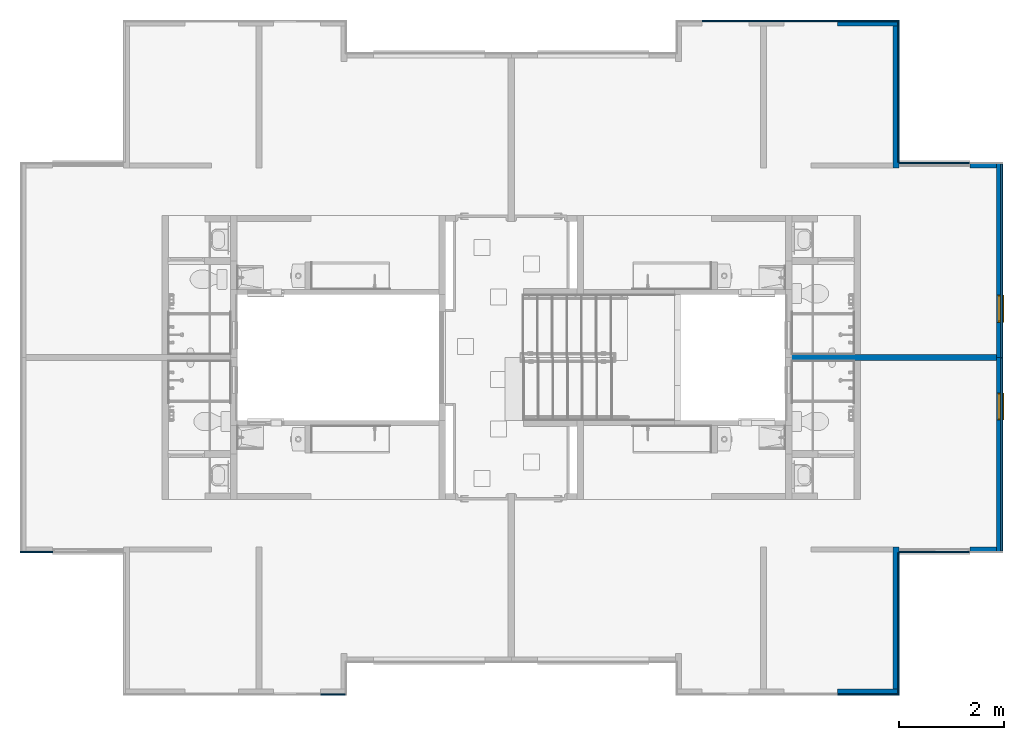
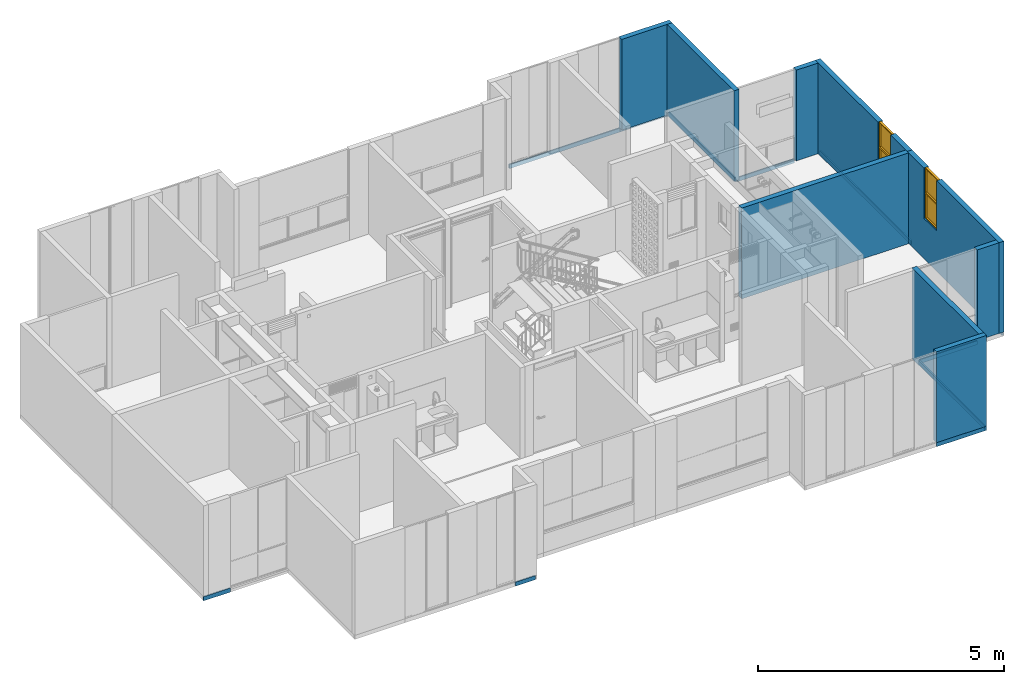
# One storey, part 26 of 48: 20 walls, 2 windows, 2 openings.
"""IFC4 building model written with IfcOpenShell, lengths in metres."""

from ifc_helpers import new_model, entity, si_unit, converted_unit, derived_unit, direction, frame, origin, place, context, subcontext, project, spatial, indexed_curve, outline, extrude, polygons, source, transform, mapped, material, constituent, constituent_set, type_object, type_shapes, element, fill, save


model = new_model("IFC4")

# Units and contexts
model_context = context("Model", 3, precision=1e-05, world=origin(), true_north=direction((6.123031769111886e-17, 1.0)))
body_context = subcontext(model_context, "Body", "Model", "MODEL_VIEW")
ifc_project = project(units=[si_unit("LENGTHUNIT", "METRE"), si_unit("AREAUNIT", "SQUARE_METRE"), si_unit("VOLUMEUNIT", "CUBIC_METRE"), converted_unit("PLANEANGLEUNIT", "DEGREE", entity("IfcRatioMeasure", 0.017453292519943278), si_unit("PLANEANGLEUNIT", "RADIAN"), dimensions=[0, 0, 0, 0, 0, 0, 0]), si_unit("MASSUNIT", "GRAM", prefix="KILO"), derived_unit("MASSDENSITYUNIT", [(si_unit("MASSUNIT", "GRAM", prefix="KILO"), 1), (si_unit("LENGTHUNIT", "METRE"), -3)]), derived_unit("IONCONCENTRATIONUNIT", [(si_unit("MASSUNIT", "GRAM", prefix="KILO"), 1), (si_unit("LENGTHUNIT", "METRE"), -3)]), derived_unit("MOMENTOFINERTIAUNIT", [(si_unit("LENGTHUNIT", "METRE"), 4)]), si_unit("TIMEUNIT", "SECOND"), si_unit("FREQUENCYUNIT", "HERTZ"), si_unit("THERMODYNAMICTEMPERATUREUNIT", "DEGREE_CELSIUS"), derived_unit("THERMALTRANSMITTANCEUNIT", [(si_unit("MASSUNIT", "GRAM", prefix="KILO"), 1), (si_unit("THERMODYNAMICTEMPERATUREUNIT", "KELVIN"), -1), (si_unit("TIMEUNIT", "SECOND"), -3)]), derived_unit("THERMALCONDUCTANCEUNIT", [(si_unit("MASSUNIT", "GRAM", prefix="KILO"), 1), (si_unit("THERMODYNAMICTEMPERATUREUNIT", "KELVIN"), -1), (si_unit("TIMEUNIT", "SECOND"), -3), (si_unit("LENGTHUNIT", "METRE"), 1)]), derived_unit("VOLUMETRICFLOWRATEUNIT", [(si_unit("LENGTHUNIT", "METRE"), 3), (si_unit("TIMEUNIT", "SECOND"), -1)]), derived_unit("MASSFLOWRATEUNIT", [(si_unit("MASSUNIT", "GRAM", prefix="KILO"), 1), (si_unit("TIMEUNIT", "SECOND"), -1)]), derived_unit("ROTATIONALFREQUENCYUNIT", [(si_unit("TIMEUNIT", "SECOND"), -1)]), si_unit("ELECTRICCURRENTUNIT", "AMPERE"), si_unit("ELECTRICVOLTAGEUNIT", "VOLT"), si_unit("POWERUNIT", "WATT"), si_unit("FORCEUNIT", "NEWTON", prefix="KILO"), si_unit("ILLUMINANCEUNIT", "LUX"), si_unit("LUMINOUSFLUXUNIT", "LUMEN"), si_unit("LUMINOUSINTENSITYUNIT", "CANDELA"), derived_unit("USERDEFINED", [(si_unit("MASSUNIT", "GRAM", prefix="KILO"), -1), (si_unit("LENGTHUNIT", "METRE"), -2), (si_unit("TIMEUNIT", "SECOND"), 3), (si_unit("LUMINOUSFLUXUNIT", "LUMEN"), 1)]), derived_unit("USERDEFINED", [(si_unit("MASSUNIT", "GRAM", prefix="KILO"), 1), (si_unit("TIMEUNIT", "SECOND"), -3), (si_unit("LENGTHUNIT", "METRE"), 3), (si_unit("ELECTRICCURRENTUNIT", "AMPERE"), -2)]), derived_unit("SOUNDPOWERUNIT", [(si_unit("MASSUNIT", "GRAM", prefix="KILO"), 1), (si_unit("TIMEUNIT", "SECOND"), -3), (si_unit("LENGTHUNIT", "METRE"), 2)]), derived_unit("SOUNDPRESSUREUNIT", [(si_unit("MASSUNIT", "GRAM", prefix="KILO"), 1), (si_unit("LENGTHUNIT", "METRE"), -1), (si_unit("TIMEUNIT", "SECOND"), -2)]), derived_unit("LINEARVELOCITYUNIT", [(si_unit("LENGTHUNIT", "METRE"), 1), (si_unit("TIMEUNIT", "SECOND"), -1)]), si_unit("PRESSUREUNIT", "PASCAL"), derived_unit("USERDEFINED", [(si_unit("MASSUNIT", "GRAM", prefix="KILO"), 1), (si_unit("LENGTHUNIT", "METRE"), -2), (si_unit("TIMEUNIT", "SECOND"), -2)]), derived_unit("LINEARFORCEUNIT", [(si_unit("MASSUNIT", "GRAM", prefix="KILO"), 1), (si_unit("TIMEUNIT", "SECOND"), -2)]), derived_unit("PLANARFORCEUNIT", [(si_unit("MASSUNIT", "GRAM", prefix="KILO"), 1), (si_unit("LENGTHUNIT", "METRE"), -1), (si_unit("TIMEUNIT", "SECOND"), -2)]), derived_unit("SPECIFICHEATCAPACITYUNIT", [(si_unit("THERMODYNAMICTEMPERATUREUNIT", "KELVIN"), -1), (si_unit("LENGTHUNIT", "METRE"), 2), (si_unit("TIMEUNIT", "SECOND"), -2)]), derived_unit("HEATINGVALUEUNIT", [(si_unit("LENGTHUNIT", "METRE"), 2), (si_unit("TIMEUNIT", "SECOND"), -2)]), derived_unit("VAPORPERMEABILITYUNIT", [(si_unit("LENGTHUNIT", "METRE"), -1), (si_unit("TIMEUNIT", "SECOND"), 1)]), derived_unit("DYNAMICVISCOSITYUNIT", [(si_unit("MASSUNIT", "GRAM", prefix="KILO"), 1), (si_unit("TIMEUNIT", "SECOND"), -1), (si_unit("LENGTHUNIT", "METRE"), -1)]), derived_unit("THERMALEXPANSIONCOEFFICIENTUNIT", [(si_unit("THERMODYNAMICTEMPERATUREUNIT", "KELVIN"), -1)]), derived_unit("MODULUSOFELASTICITYUNIT", [(si_unit("MASSUNIT", "GRAM", prefix="KILO"), 1), (si_unit("LENGTHUNIT", "METRE"), -1), (si_unit("TIMEUNIT", "SECOND"), -2)]), derived_unit("ISOTHERMALMOISTURECAPACITYUNIT", [(si_unit("LENGTHUNIT", "METRE"), 3), (si_unit("MASSUNIT", "GRAM", prefix="KILO"), -1)]), derived_unit("MOISTUREDIFFUSIVITYUNIT", [(si_unit("TIMEUNIT", "SECOND"), -1), (si_unit("LENGTHUNIT", "METRE"), 2)])], contexts=[model_context])

# Site, building, storey
site_placement = place(None, origin())
site = spatial("IfcSite", under=ifc_project, at=site_placement, Name="Default", CompositionType="ELEMENT")
building_placement = place(site_placement, origin())
building = spatial("IfcBuilding", under=site, at=building_placement, CompositionType="ELEMENT")
storey_placement = place(building_placement, frame((0.0, 0.0, 4.700000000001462)))
storey = spatial("IfcBuildingStorey", under=building, at=storey_placement, Name="Nivel 3", CompositionType="ELEMENT", Elevation=4.700000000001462)

# Wall
ifc_material_1 = material(Name="Concreto (Aire)", Category="Materials")
wall_type_1 = type_object("IfcWallType", Name="Basic Wall:B2010 - 0.12m - Muro interior en concreto", PredefinedType="STANDARD")
wall_1_placement = place(storey_placement, frame((18.587500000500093, -6.425000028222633, 0.0), z_axis=(0.0, 0.0, 1.0), x_axis=(-1.0, 0.0, 0.0)))
element("IfcWall", 1, at=wall_1_placement, inside=storey, type_object=wall_type_1, material=ifc_material_1, Name="Basic Wall:B2010 - 0.12m - Muro interior en concreto", ObjectType="Basic Wall:B2010 - 0.12m - Muro interior en concreto", PredefinedType="NOTDEFINED", context=body_context, shape_type="SweptSolid", body=[
    extrude(outline(indexed_curve([(3.914999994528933, 0.06000000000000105), (1.8965521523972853e-16, 0.060000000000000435), (-1.8965521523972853e-16, -0.060000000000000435), (3.914999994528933, -0.05999999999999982), (3.914999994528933, 0.06000000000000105)], self_intersect=False)), origin(), (0.0, 0.0, 1.0), 2.250000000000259),
])

# Wall, opening, window
ifc_material_2 = material(Name="Ladrillo claro (Aire)", Category="Materials")
wall_type_2 = type_object("IfcWallType", Name="Basic Wall:B2010 - 0.115m - Muro exterior en mampostería - Ladrillo", PredefinedType="STANDARD")
wall_2_placement = place(storey_placement, frame((18.64500000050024, -2.695000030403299, 0.0), z_axis=(0.0, 0.0, 1.0), x_axis=(0.0, -1.0, 0.0)))
wall_2 = element("IfcWall", 2, at=wall_2_placement, inside=storey, type_object=wall_type_2, material=ifc_material_2, Name="Basic Wall:B2010 - 0.115m - Muro exterior en mampostería - Ladrillo", ObjectType="Basic Wall:B2010 - 0.115m - Muro exterior en mampostería - Ladrillo", PredefinedType="NOTDEFINED", context=body_context, shape_type="Tessellation", body=[
    polygons([(3.729999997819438, -0.05750000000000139, 2.2500000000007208), (3.056249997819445, -0.05749999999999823, 2.2500000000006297), (3.056249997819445, -0.05749999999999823, 1.0000000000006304), (2.536249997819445, -0.057500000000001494, 1.0000000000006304), (2.536249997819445, -0.057500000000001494, 2.2500000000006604), (5.414335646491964e-16, -0.05749999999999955, 2.2500000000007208), (5.414335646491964e-16, -0.05749999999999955, 0.0), (3.729999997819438, -0.05750000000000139, 0.0), (3.0562499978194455, 0.05750000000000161, 1.0000000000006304), (3.0562499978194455, 0.05750000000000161, 2.2500000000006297), (3.7299999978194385, 0.05750000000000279, 2.2500000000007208), (3.7299999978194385, 0.05750000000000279, 0.0), (5.414335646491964e-16, 0.057500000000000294, 0.0), (5.414335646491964e-16, 0.057500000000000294, 2.2500000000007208), (2.5362499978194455, 0.05750000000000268, 2.2500000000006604), (2.5362499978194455, 0.05750000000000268, 1.0000000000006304)], [[[1, 2, 3, 4, 5, 6, 7, 8]], [[9, 10, 11, 12, 13, 14, 15, 16]], [[8, 7, 13, 12]], [[1, 8, 12, 11]], [[11, 10, 2, 1]], [[7, 6, 14, 13]], [[5, 4, 16, 15]], [[3, 2, 10, 9]], [[4, 3, 9, 16]], [[15, 14, 6, 5]]], closed=True),
])
opening_1_placement = place(wall_2_placement, frame((2.5362499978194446, -0.057500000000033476, 1.0)))
opening_1 = element("IfcOpeningElement", 3, at=opening_1_placement, cuts=wall_2, Name="B2020 - Ventana batiente - Aluminio + Vidrio:B2020 -0.52m x 1.1.25m - Ventana batiente 2C - Aluminio + Vidrio:1", PredefinedType="OPENING", context=body_context, shape_type="SweptSolid", body=[
    extrude(outline(indexed_curve([(0.0, -1.3535839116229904e-16), (1.2499999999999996, -1.3535839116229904e-16), (1.2499999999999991, 0.5199999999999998), (0.0, 0.5199999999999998), (0.0, -1.3535839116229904e-16)], self_intersect=False)), frame((0.0, 0.0, 0.0), z_axis=(0.0, 1.0, 0.0), x_axis=(0.0, 0.0, 1.0)), (0.0, 0.0, 1.0), 0.115),
])
ifc_material_3 = material(Name="Vidrio", Category="Materials")
ifc_constituent_1 = constituent(ifc_material_3, Name="Vidrio", Category="Materials")
ifc_material_4 = material(Name="Aluminio", Category="Materials")
ifc_constituent_2 = constituent(ifc_material_4, Name="Aluminio", Category="Materials")
ifc_material_5 = material(Name="<Unnamed>")
ifc_constituent_3 = constituent(ifc_material_5, Name="<Unnamed>")
ifc_constituent_set_1 = constituent_set(constituents=[ifc_constituent_1, ifc_constituent_2, ifc_constituent_3])
ifc_constituent_4 = constituent(ifc_material_3, Name="Vidrio", Category="Materials")
ifc_constituent_5 = constituent(ifc_material_4, Name="Aluminio", Category="Materials")
ifc_constituent_6 = constituent(ifc_material_5, Name="<Unnamed>")
ifc_constituent_set_2 = constituent_set(constituents=[ifc_constituent_4, ifc_constituent_5, ifc_constituent_6])
window_type_1 = type_object("IfcWindowType", Name="B2020 - Ventana batiente - Aluminio + Vidrio:B2020 -0.52m x 1.1.25m - Ventana batiente 2C - Aluminio + Vidrio", PartitioningType="NOTDEFINED", PredefinedType="WINDOW", material=ifc_constituent_set_2)
shared_shape_1 = source(origin(), body_context, "Body", "SweptSolid", [
    extrude(outline(indexed_curve([(-0.0020000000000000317, -0.2400000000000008), (0.0019999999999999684, -0.2400000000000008), (0.0020000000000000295, 0.2400000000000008), (-0.0019999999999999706, 0.2400000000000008), (-0.0020000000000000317, -0.2400000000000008)], self_intersect=False)), frame((0.26000000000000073, 0.07013901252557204, 0.01999999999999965), z_axis=(0.0, 0.0, 1.0), x_axis=(0.0, -1.0, 0.0)), (0.0, 0.0, 1.0), 0.585),
    extrude(outline(indexed_curve([(-0.3124999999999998, -0.2599999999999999), (0.3124999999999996, -0.2599999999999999), (0.3124999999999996, 0.2599999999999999), (-0.3124999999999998, 0.2599999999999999), (-0.3124999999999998, -0.2599999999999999)], self_intersect=False), holes=[indexed_curve([(0.2924999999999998, -0.24000000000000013), (-0.2925, -0.24000000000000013), (-0.2925, 0.24000000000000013), (0.2924999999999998, 0.24000000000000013), (0.2924999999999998, -0.24000000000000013)], self_intersect=False)]), frame((0.26000000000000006, 0.032499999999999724, 0.3124999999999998), z_axis=(0.0, 1.0, 0.0), x_axis=(0.0, 0.0, 1.0)), (0.0, 0.0, 1.0), 0.05),
    extrude(outline(indexed_curve([(-0.0020000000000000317, -0.2400000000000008), (0.0019999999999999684, -0.2400000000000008), (0.0020000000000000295, 0.2400000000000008), (-0.0019999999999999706, 0.2400000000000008), (-0.0020000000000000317, -0.2400000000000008)], self_intersect=False)), frame((0.25999999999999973, 0.07013901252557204, 0.6449999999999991), z_axis=(0.0, 0.0, 1.0), x_axis=(0.0, -1.0, 0.0)), (0.0, 0.0, 1.0), 0.585),
    extrude(outline(indexed_curve([(-0.3124999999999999, -0.2599999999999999), (0.3124999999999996, -0.2599999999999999), (0.3124999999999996, 0.25999999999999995), (-0.3124999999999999, 0.2599999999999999), (-0.3124999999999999, -0.2599999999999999)], self_intersect=False), holes=[indexed_curve([(0.2924999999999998, -0.24000000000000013), (-0.2925000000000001, -0.24000000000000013), (-0.2925000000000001, 0.24000000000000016), (0.2924999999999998, 0.24000000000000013), (0.2924999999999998, -0.24000000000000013)], self_intersect=False)]), frame((0.259999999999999, 0.032499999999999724, 0.9374999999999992), z_axis=(0.0, 1.0, 0.0), x_axis=(0.0, 0.0, 1.0)), (0.0, 0.0, 1.0), 0.05),
    extrude(outline(indexed_curve([(2.1899534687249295e-05, 0.0030283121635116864), (0.03002189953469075, 0.0030283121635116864), (0.030021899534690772, 0.008028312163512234), (-0.0013178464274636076, 0.00802831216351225), (-0.030623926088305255, -0.008891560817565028), (-0.02812392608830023, -0.013221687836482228), (2.1899534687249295e-05, 0.0030283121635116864)], self_intersect=False)), frame((0.0, 0.11346687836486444, -0.002611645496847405), z_axis=(1.0, 0.0, 0.0), x_axis=(0.0, 0.8660254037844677, -0.4999999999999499)), (0.0, 0.0, 1.0), 0.520000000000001),
])
type_shapes(window_type_1, [shared_shape_1])
window_1_placement = place(opening_1_placement, origin())
window_1 = element("IfcWindow", 4, at=window_1_placement, inside=storey, type_object=window_type_1, material=ifc_constituent_set_1, Name="B2020 - Ventana batiente - Aluminio + Vidrio:B2020 -0.52m x 1.1.25m - Ventana batiente 2C - Aluminio + Vidrio", ObjectType="B2020 - Ventana batiente - Aluminio + Vidrio:B2020 -0.52m x 1.1.25m - Ventana batiente 2C - Aluminio + Vidrio", OverallHeight=1.2499999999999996, OverallWidth=0.5199999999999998, PartitioningType="NOTDEFINED", PredefinedType="WINDOW", context=body_context, shape_type="MappedRepresentation", body=[
    mapped(shared_shape_1, transform((0.0, 0.0, 0.0), scale=1.0)),
])
fill(opening_1, window_1)

# Wall
wall_3_placement = place(storey_placement, frame((16.670000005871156, -2.8100000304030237, 0.0), z_axis=(0.0, 0.0, 1.0), x_axis=(0.0, 1.0, 0.0)))
element("IfcWall", 5, at=wall_3_placement, inside=storey, type_object=wall_type_2, material=ifc_material_2, Name="Basic Wall:B2010 - 0.115m - Muro exterior en mampostería - Ladrillo", ObjectType="Basic Wall:B2010 - 0.115m - Muro exterior en mampostería - Ladrillo", PredefinedType="NOTDEFINED", context=body_context, shape_type="SweptSolid", body=[
    extrude(outline(indexed_curve([(2.7150000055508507, 0.057499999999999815), (1.0301981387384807e-16, 0.057499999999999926), (-1.0301981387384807e-16, -0.057499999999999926), (2.7150000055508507, -0.05750000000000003), (2.7150000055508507, 0.057499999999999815)], self_intersect=False)), origin(), (0.0, 0.0, 1.0), 2.2500000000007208),
])

# Wall, opening, window
wall_4_placement = place(storey_placement, frame((18.645000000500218, -10.15500002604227, 0.0), z_axis=(0.0, 0.0, 1.0), x_axis=(0.0, 1.0, 0.0)))
wall_4 = element("IfcWall", 6, at=wall_4_placement, inside=storey, type_object=wall_type_2, material=ifc_material_2, Name="Basic Wall:B2010 - 0.115m - Muro exterior en mampostería - Ladrillo", ObjectType="Basic Wall:B2010 - 0.115m - Muro exterior en mampostería - Ladrillo", PredefinedType="NOTDEFINED", context=body_context, shape_type="Tessellation", body=[
    polygons([(3.729999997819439, -0.05750000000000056, 2.2500000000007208), (3.05624999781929, -0.05749999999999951, 2.2500000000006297), (3.05624999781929, -0.05749999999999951, 1.0000000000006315), (2.5362499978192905, -0.05749999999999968, 1.0000000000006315), (2.5362499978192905, -0.05749999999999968, 2.2500000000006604), (0.0, -0.057499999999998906, 2.2500000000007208), (0.0, -0.057499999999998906, 0.0), (3.729999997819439, -0.05750000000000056, 0.0), (3.056249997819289, 0.057500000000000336, 1.0000000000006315), (3.056249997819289, 0.057500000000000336, 2.2500000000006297), (3.729999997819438, 0.05750000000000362, 2.2500000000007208), (3.729999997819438, 0.05750000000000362, 0.0), (0.0, 0.05750000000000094, 0.0), (0.0, 0.05750000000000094, 2.2500000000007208), (2.5362499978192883, 0.05750000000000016, 2.2500000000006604), (2.5362499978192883, 0.05750000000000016, 1.0000000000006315)], [[[1, 2, 3, 4, 5, 6, 7, 8]], [[9, 10, 11, 12, 13, 14, 15, 16]], [[8, 7, 13, 12]], [[1, 8, 12, 11]], [[11, 10, 2, 1]], [[7, 6, 14, 13]], [[5, 4, 16, 15]], [[3, 2, 10, 9]], [[4, 3, 9, 16]], [[15, 14, 6, 5]]], closed=True),
])
opening_2_placement = place(wall_4_placement, frame((3.056249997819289, 0.05750000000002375, 1.0)))
opening_2 = element("IfcOpeningElement", 7, at=opening_2_placement, cuts=wall_4, Name="B2020 - Ventana batiente - Aluminio + Vidrio:B2020 -0.52m x 1.1.25m - Ventana batiente 2C - Aluminio + Vidrio:1", PredefinedType="OPENING", context=body_context, shape_type="SweptSolid", body=[
    extrude(outline(indexed_curve([(0.0, 0.5199999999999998), (0.0, 0.0), (1.2499999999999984, 0.0), (1.2499999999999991, 0.5199999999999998), (0.0, 0.5199999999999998)], self_intersect=False)), frame((0.0, 0.0, 0.0), z_axis=(0.0, -1.0, 0.0), x_axis=(0.0, 0.0, 1.0)), (0.0, 0.0, 1.0), 0.115),
])
ifc_constituent_7 = constituent(ifc_material_3, Name="Vidrio", Category="Materials")
ifc_constituent_8 = constituent(ifc_material_4, Name="Aluminio", Category="Materials")
ifc_constituent_9 = constituent(ifc_material_5, Name="<Unnamed>")
ifc_constituent_set_3 = constituent_set(constituents=[ifc_constituent_7, ifc_constituent_8, ifc_constituent_9])
ifc_constituent_10 = constituent(ifc_material_3, Name="Vidrio", Category="Materials")
ifc_constituent_11 = constituent(ifc_material_4, Name="Aluminio", Category="Materials")
ifc_constituent_12 = constituent(ifc_material_5, Name="<Unnamed>")
ifc_constituent_set_4 = constituent_set(constituents=[ifc_constituent_10, ifc_constituent_11, ifc_constituent_12])
window_type_2 = type_object("IfcWindowType", Name="B2020 - Ventana batiente - Aluminio + Vidrio:B2020 -0.52m x 1.1.25m - Ventana batiente 2C - Aluminio + Vidrio", PartitioningType="NOTDEFINED", PredefinedType="WINDOW", material=ifc_constituent_set_4)
shared_shape_2 = source(origin(), body_context, "Body", "SweptSolid", [
    extrude(outline(indexed_curve([(-0.2400000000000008, -0.001999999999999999), (0.2400000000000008, -0.001999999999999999), (0.2400000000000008, 0.0020000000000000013), (-0.2400000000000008, 0.0020000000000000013), (-0.2400000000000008, -0.001999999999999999)], self_intersect=False)), frame((0.26000000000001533, 0.07013901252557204, 0.01999999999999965), z_axis=(0.0, 0.0, 1.0), x_axis=(-1.0, 0.0, 0.0)), (0.0, 0.0, 1.0), 0.585),
    extrude(outline(indexed_curve([(-0.2599999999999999, -0.3124999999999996), (0.2599999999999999, -0.3124999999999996), (0.2599999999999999, 0.3124999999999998), (-0.2599999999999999, 0.3124999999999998), (-0.2599999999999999, -0.3124999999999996)], self_intersect=False), holes=[indexed_curve([(-0.24000000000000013, 0.2925), (0.24000000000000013, 0.2925), (0.24000000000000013, -0.2924999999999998), (-0.24000000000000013, -0.2924999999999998), (-0.24000000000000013, 0.2925)], self_intersect=False)]), frame((0.260000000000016, 0.08249999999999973, 0.3124999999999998), z_axis=(0.0, -1.0, 0.0), x_axis=(-1.0, 0.0, 0.0)), (0.0, 0.0, 1.0), 0.05),
    extrude(outline(indexed_curve([(-0.2400000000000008, -0.001999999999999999), (0.2400000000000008, -0.001999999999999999), (0.2400000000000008, 0.0020000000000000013), (-0.2400000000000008, 0.0020000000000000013), (-0.2400000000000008, -0.001999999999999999)], self_intersect=False)), frame((0.2600000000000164, 0.07013901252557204, 0.6449999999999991), z_axis=(0.0, 0.0, 1.0), x_axis=(-1.0, 0.0, 0.0)), (0.0, 0.0, 1.0), 0.585),
    extrude(outline(indexed_curve([(-0.2599999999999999, -0.3124999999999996), (0.2599999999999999, -0.3124999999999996), (0.2599999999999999, 0.3124999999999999), (-0.2599999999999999, 0.3124999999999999), (-0.2599999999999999, -0.3124999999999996)], self_intersect=False), holes=[indexed_curve([(-0.24000000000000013, 0.2925000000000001), (0.24000000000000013, 0.2925000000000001), (0.24000000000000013, -0.2924999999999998), (-0.24000000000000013, -0.2924999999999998), (-0.24000000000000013, 0.2925000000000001)], self_intersect=False)]), frame((0.26000000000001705, 0.08249999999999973, 0.9374999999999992), z_axis=(0.0, -1.0, 0.0), x_axis=(-1.0, 0.0, 0.0)), (0.0, 0.0, 1.0), 0.05),
    extrude(outline(indexed_curve([(-0.0015331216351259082, 0.002611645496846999), (0.030966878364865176, 0.002611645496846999), (0.030966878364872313, 0.007611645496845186), (-0.0028728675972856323, 0.007611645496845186), (-0.030013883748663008, -0.008058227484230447), (-0.027513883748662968, -0.012388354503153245), (-0.0015331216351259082, 0.002611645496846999)], self_intersect=False)), frame((0.5200000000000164, 0.11346687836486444, -0.002611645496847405), z_axis=(-1.0, 0.0, 0.0), x_axis=(0.0, -1.0, 0.0)), (0.0, 0.0, 1.0), 0.5200000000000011),
])
type_shapes(window_type_2, [shared_shape_2])
window_2_placement = place(opening_2_placement, frame((0.0, 0.0, 0.0), z_axis=(0.0, 0.0, 1.0), x_axis=(-1.0, 0.0, 0.0)))
window_2 = element("IfcWindow", 8, at=window_2_placement, inside=storey, type_object=window_type_2, material=ifc_constituent_set_3, Name="B2020 - Ventana batiente - Aluminio + Vidrio:B2020 -0.52m x 1.1.25m - Ventana batiente 2C - Aluminio + Vidrio", ObjectType="B2020 - Ventana batiente - Aluminio + Vidrio:B2020 -0.52m x 1.1.25m - Ventana batiente 2C - Aluminio + Vidrio", OverallHeight=1.2499999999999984, OverallWidth=0.5199999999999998, PartitioningType="NOTDEFINED", PredefinedType="WINDOW", context=body_context, shape_type="MappedRepresentation", body=[
    mapped(shared_shape_2, transform((0.0, 0.0, 0.0), scale=1.0)),
])
fill(opening_2, window_2)

# Walls
wall_5_placement = place(storey_placement, frame((16.670000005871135, -10.040000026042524, 0.0), z_axis=(0.0, 0.0, 1.0), x_axis=(0.0, -1.0, 0.0)))
element("IfcWall", 9, at=wall_5_placement, inside=storey, type_object=wall_type_2, material=ifc_material_2, Name="Basic Wall:B2010 - 0.115m - Muro exterior en mampostería - Ladrillo", ObjectType="Basic Wall:B2010 - 0.115m - Muro exterior en mampostería - Ladrillo", PredefinedType="NOTDEFINED", context=body_context, shape_type="SweptSolid", body=[
    extrude(outline(indexed_curve([(2.7150000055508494, 0.05750000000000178), (-1.0024667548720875e-15, 0.057499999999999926), (1.0024667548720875e-15, -0.057499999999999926), (2.7150000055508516, -0.057499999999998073), (2.7150000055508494, 0.05750000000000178)], self_intersect=False)), origin(), (0.0, 0.0, 1.0), 2.2500000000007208),
])
ifc_material_6 = material(Name="LADRILLO CLARO", Category="Materials")
wall_type_3 = type_object("IfcWallType", Name="Basic Wall:B2010 - 0.115m - ME mampostería no estructural - Ladrillo", PredefinedType="STANDARD")
wall_6_placement = place(storey_placement, frame((18.58750000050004, -2.7525000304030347, 0.0), z_axis=(0.0, 0.0, 1.0), x_axis=(-1.0, 0.0, 0.0)))
element("IfcWall", 10, at=wall_6_placement, inside=storey, type_object=wall_type_3, material=ifc_material_6, Name="Basic Wall:B2010 - 0.115m - ME mampostería no estructural - Ladrillo", ObjectType="Basic Wall:B2010 - 0.115m - ME mampostería no estructural - Ladrillo", PredefinedType="NOTDEFINED", context=body_context, shape_type="SweptSolid", body=[
    extrude(outline(indexed_curve([(0.5099999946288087, 0.05749999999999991), (-1.8225877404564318e-16, 0.057499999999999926), (1.8225877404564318e-16, -0.057499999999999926), (0.5099999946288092, -0.05749999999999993), (0.5099999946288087, 0.05749999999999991)], self_intersect=False)), origin(), (0.0, 0.0, 1.0), 2.2500000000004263),
])
wall_7_placement = place(storey_placement, frame((18.587500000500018, -10.097500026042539, 0.0), z_axis=(0.0, 0.0, 1.0), x_axis=(-1.0, 0.0, 0.0)))
element("IfcWall", 11, at=wall_7_placement, inside=storey, type_object=wall_type_3, material=ifc_material_6, Name="Basic Wall:B2010 - 0.115m - ME mampostería no estructural - Ladrillo", ObjectType="Basic Wall:B2010 - 0.115m - ME mampostería no estructural - Ladrillo", PredefinedType="NOTDEFINED", context=body_context, shape_type="SweptSolid", body=[
    extrude(outline(indexed_curve([(0.5099999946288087, 0.05749999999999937), (-1.82274758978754e-16, 0.057499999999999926), (1.82274758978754e-16, -0.057499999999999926), (0.5099999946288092, -0.057500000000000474), (0.5099999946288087, 0.05749999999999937)], self_intersect=False)), origin(), (0.0, 0.0, 1.0), 2.2500000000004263),
])
wall_8_placement = place(storey_placement, frame((15.553300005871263, -0.03750002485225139, 0.0)))
element("IfcWall", 12, at=wall_8_placement, inside=storey, type_object=wall_type_3, material=ifc_material_6, Name="Basic Wall:B2010 - 0.115m - ME mampostería no estructural - Ladrillo", ObjectType="Basic Wall:B2010 - 0.115m - ME mampostería no estructural - Ladrillo", PredefinedType="NOTDEFINED", context=body_context, shape_type="SweptSolid", body=[
    extrude(outline(indexed_curve([(1.1741999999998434, 0.05749999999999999), (-3.2573614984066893e-16, 0.0575), (3.257361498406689e-16, -0.05749999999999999), (1.1741999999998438, -0.05749999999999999), (1.1741999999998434, 0.05749999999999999)], self_intersect=False)), origin(), (0.0, 0.0, 1.0), 2.250000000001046),
])
wall_9_placement = place(storey_placement, frame((15.553300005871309, -12.812500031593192, 0.0)))
element("IfcWall", 13, at=wall_9_placement, inside=storey, type_object=wall_type_3, material=ifc_material_6, Name="Basic Wall:B2010 - 0.115m - ME mampostería no estructural - Ladrillo", ObjectType="Basic Wall:B2010 - 0.115m - ME mampostería no estructural - Ladrillo", PredefinedType="NOTDEFINED", context=body_context, shape_type="SweptSolid", body=[
    extrude(outline(indexed_curve([(1.1741999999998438, 0.05749999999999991), (3.1869443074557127e-16, 0.057499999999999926), (-3.1869443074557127e-16, -0.057499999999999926), (1.1741999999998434, -0.05749999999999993), (1.1741999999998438, 0.05749999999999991)], self_intersect=False)), origin(), (0.0, 0.0, 1.0), 2.250000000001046),
])
wall_type_4 = type_object("IfcWallType", Name="Basic Wall:B2010 - 0.03m - ME enchape  no estructural - Ladrillo", PredefinedType="STANDARD")
wall_10_placement = place(storey_placement, frame((6.152499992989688, -12.855000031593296, -0.1000000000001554), z_axis=(0.0, 0.0, 1.0), x_axis=(-1.0, 0.0, 0.0)))
element("IfcWall", 14, at=wall_10_placement, inside=storey, type_object=wall_type_4, material=ifc_material_6, Name="Basic Wall:B2010 - 0.03m - ME enchape  no estructural - Ladrillo", ObjectType="Basic Wall:B2010 - 0.03m - ME enchape  no estructural - Ladrillo", PredefinedType="NOTDEFINED", context=body_context, shape_type="SweptSolid", body=[
    extrude(outline(indexed_curve([(0.4700000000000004, 0.015000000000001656), (4.570130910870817e-17, 0.015000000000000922), (-4.570130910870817e-17, -0.015000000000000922), (0.4700000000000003, -0.015000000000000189), (0.4700000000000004, 0.015000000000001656)], self_intersect=False)), origin(), (0.0, 0.0, 1.0), 0.1),
])
wall_11_placement = place(storey_placement, frame((-0.057499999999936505, -10.140000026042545, -0.1000000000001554)))
element("IfcWall", 15, at=wall_11_placement, inside=storey, type_object=wall_type_4, material=ifc_material_6, Name="Basic Wall:B2010 - 0.03m - ME enchape  no estructural - Ladrillo", ObjectType="Basic Wall:B2010 - 0.03m - ME enchape  no estructural - Ladrillo", PredefinedType="NOTDEFINED", context=body_context, shape_type="SweptSolid", body=[
    extrude(outline(indexed_curve([(0.6249999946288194, 0.015000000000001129), (2.3382102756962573e-18, 0.015000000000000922), (-2.3382102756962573e-18, -0.015000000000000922), (0.6249999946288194, -0.015000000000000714), (0.6249999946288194, 0.015000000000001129)], self_intersect=False)), origin(), (0.0, 0.0, 1.0), 0.1),
])
wall_12_placement = place(storey_placement, frame((16.71250000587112, -0.010000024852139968, -0.1000000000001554), z_axis=(0.0, 0.0, 1.0), x_axis=(0.0, -1.0, 0.0)))
element("IfcWall", 16, at=wall_12_placement, inside=storey, type_object=wall_type_4, material=ifc_material_6, Name="Basic Wall:B2010 - 0.03m - ME enchape  no estructural - Ladrillo", ObjectType="Basic Wall:B2010 - 0.03m - ME enchape  no estructural - Ladrillo", PredefinedType="NOTDEFINED", context=body_context, shape_type="SweptSolid", body=[
    extrude(outline(indexed_curve([(2.683660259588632, 0.015000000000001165), (1.7027254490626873e-18, 0.015000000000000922), (-1.7027254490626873e-18, -0.015000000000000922), (2.683660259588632, -0.015000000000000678), (2.683660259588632, 0.015000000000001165)], self_intersect=False)), origin(), (0.0, 0.0, 1.0), 0.1),
])
wall_13_placement = place(storey_placement, frame((18.6875000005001, -2.725000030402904, -0.1000000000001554), z_axis=(0.0, 0.0, 1.0), x_axis=(0.0, -1.0, 0.0)))
element("IfcWall", 17, at=wall_13_placement, inside=storey, type_object=wall_type_4, material=ifc_material_6, Name="Basic Wall:B2010 - 0.03m - ME enchape  no estructural - Ladrillo", ObjectType="Basic Wall:B2010 - 0.03m - ME enchape  no estructural - Ladrillo", PredefinedType="NOTDEFINED", context=body_context, shape_type="SweptSolid", body=[
    extrude(outline(indexed_curve([(3.699999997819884, 0.015000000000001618), (-7.306011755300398e-17, 0.015000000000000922), (7.306011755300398e-17, -0.015000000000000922), (3.699999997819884, -0.015000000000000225), (3.699999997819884, 0.015000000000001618)], self_intersect=False)), origin(), (0.0, 0.0, 1.0), 0.1),
])
wall_14_placement = place(storey_placement, frame((16.712500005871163, -12.840000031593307, -0.1000000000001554), z_axis=(0.0, 0.0, 1.0), x_axis=(0.0, 1.0, 0.0)))
element("IfcWall", 18, at=wall_14_placement, inside=storey, type_object=wall_type_4, material=ifc_material_6, Name="Basic Wall:B2010 - 0.03m - ME enchape  no estructural - Ladrillo", ObjectType="Basic Wall:B2010 - 0.03m - ME enchape  no estructural - Ladrillo", PredefinedType="NOTDEFINED", context=body_context, shape_type="SweptSolid", body=[
    extrude(outline(indexed_curve([(2.683660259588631, 0.015000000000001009), (-2.4689444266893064e-17, 0.015000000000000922), (2.4689444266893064e-17, -0.015000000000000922), (2.683660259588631, -0.015000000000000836), (2.683660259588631, 0.015000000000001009)], self_intersect=False)), origin(), (0.0, 0.0, 1.0), 0.1),
])
wall_15_placement = place(storey_placement, frame((18.687500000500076, -10.125000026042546, -0.1000000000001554), z_axis=(0.0, 0.0, 1.0), x_axis=(0.0, 1.0, 0.0)))
element("IfcWall", 19, at=wall_15_placement, inside=storey, type_object=wall_type_4, material=ifc_material_6, Name="Basic Wall:B2010 - 0.03m - ME enchape  no estructural - Ladrillo", ObjectType="Basic Wall:B2010 - 0.03m - ME enchape  no estructural - Ladrillo", PredefinedType="NOTDEFINED", context=body_context, shape_type="SweptSolid", body=[
    extrude(outline(indexed_curve([(3.699999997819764, 0.015000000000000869), (-2.6129816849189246e-17, 0.015000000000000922), (2.6129816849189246e-17, -0.015000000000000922), (3.699999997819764, -0.015000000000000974), (3.699999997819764, 0.015000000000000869)], self_intersect=False)), origin(), (0.0, 0.0, 1.0), 0.1),
])
wall_16_placement = place(storey_placement, frame((15.552500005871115, 0.004999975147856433, -0.1000000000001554)))
element("IfcWall", 20, at=wall_16_placement, inside=storey, type_object=wall_type_4, material=ifc_material_6, Name="Basic Wall:B2010 - 0.03m - ME enchape  no estructural - Ladrillo", ObjectType="Basic Wall:B2010 - 0.03m - ME enchape  no estructural - Ladrillo", PredefinedType="NOTDEFINED", context=body_context, shape_type="SweptSolid", body=[
    extrude(outline(indexed_curve([(1.1750000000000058, 0.014999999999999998), (4.3864338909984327e-17, 0.015), (-4.3864338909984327e-17, -0.015), (1.1750000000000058, -0.015000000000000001), (1.1750000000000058, 0.014999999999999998)], self_intersect=False)), origin(), (0.0, 0.0, 1.0), 0.1),
])
wall_17_placement = place(storey_placement, frame((12.962500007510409, 0.004999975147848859, -0.1000000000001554)))
element("IfcWall", 21, at=wall_17_placement, inside=storey, type_object=wall_type_4, material=ifc_material_6, Name="Basic Wall:B2010 - 0.03m - ME enchape  no estructural - Ladrillo", ObjectType="Basic Wall:B2010 - 0.03m - ME enchape  no estructural - Ladrillo", PredefinedType="NOTDEFINED", context=body_context, shape_type="SweptSolid", body=[
    extrude(outline(indexed_curve([(2.5899999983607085, 0.014999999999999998), (4.3864338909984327e-17, 0.015), (-4.3864338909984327e-17, -0.015), (2.5899999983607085, -0.015000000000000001), (2.5899999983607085, 0.014999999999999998)], self_intersect=False)), origin(), (0.0, 0.0, 1.0), 0.1),
])
wall_18_placement = place(storey_placement, frame((15.552500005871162, -12.855000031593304, -0.1000000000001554)))
element("IfcWall", 22, at=wall_18_placement, inside=storey, type_object=wall_type_4, material=ifc_material_6, Name="Basic Wall:B2010 - 0.03m - ME enchape  no estructural - Ladrillo", ObjectType="Basic Wall:B2010 - 0.03m - ME enchape  no estructural - Ladrillo", PredefinedType="NOTDEFINED", context=body_context, shape_type="SweptSolid", body=[
    extrude(outline(indexed_curve([(1.1749999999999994, 0.015000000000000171), (-4.570130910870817e-17, 0.015000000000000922), (4.570130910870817e-17, -0.015000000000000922), (1.1749999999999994, -0.015000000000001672), (1.1749999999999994, 0.015000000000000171)], self_intersect=False)), origin(), (0.0, 0.0, 1.0), 0.1),
])
wall_19_placement = place(storey_placement, frame((18.077500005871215, -2.7100000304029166, -0.1000000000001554), z_axis=(0.0, 0.0, 1.0), x_axis=(-1.0, 0.0, 0.0)))
element("IfcWall", 23, at=wall_19_placement, inside=storey, type_object=wall_type_4, material=ifc_material_6, Name="Basic Wall:B2010 - 0.03m - ME enchape  no estructural - Ladrillo", ObjectType="Basic Wall:B2010 - 0.03m - ME enchape  no estructural - Ladrillo", PredefinedType="NOTDEFINED", context=body_context, shape_type="SweptSolid", body=[
    extrude(outline(indexed_curve([(1.3500000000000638, 0.014999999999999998), (3.050576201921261e-16, 0.014999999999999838), (-3.050576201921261e-16, -0.014999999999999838), (1.3500000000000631, -0.01499999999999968), (1.3500000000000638, 0.014999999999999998)], self_intersect=False)), origin(), (0.0, 0.0, 1.0), 0.1),
])
wall_20_placement = place(storey_placement, frame((18.077500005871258, -10.140000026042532, -0.1000000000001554), z_axis=(0.0, 0.0, 1.0), x_axis=(-1.0, 0.0, 0.0)))
element("IfcWall", 24, at=wall_20_placement, inside=storey, type_object=wall_type_4, material=ifc_material_6, Name="Basic Wall:B2010 - 0.03m - ME enchape  no estructural - Ladrillo", ObjectType="Basic Wall:B2010 - 0.03m - ME enchape  no estructural - Ladrillo", PredefinedType="NOTDEFINED", context=body_context, shape_type="SweptSolid", body=[
    extrude(outline(indexed_curve([(1.3500000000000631, 0.015000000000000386), (-3.068945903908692e-16, 0.015000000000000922), (3.068945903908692e-16, -0.015000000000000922), (1.3500000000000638, -0.015000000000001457), (1.3500000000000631, 0.015000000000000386)], self_intersect=False)), origin(), (0.0, 0.0, 1.0), 0.1),
])

save(model, "model.ifc")
